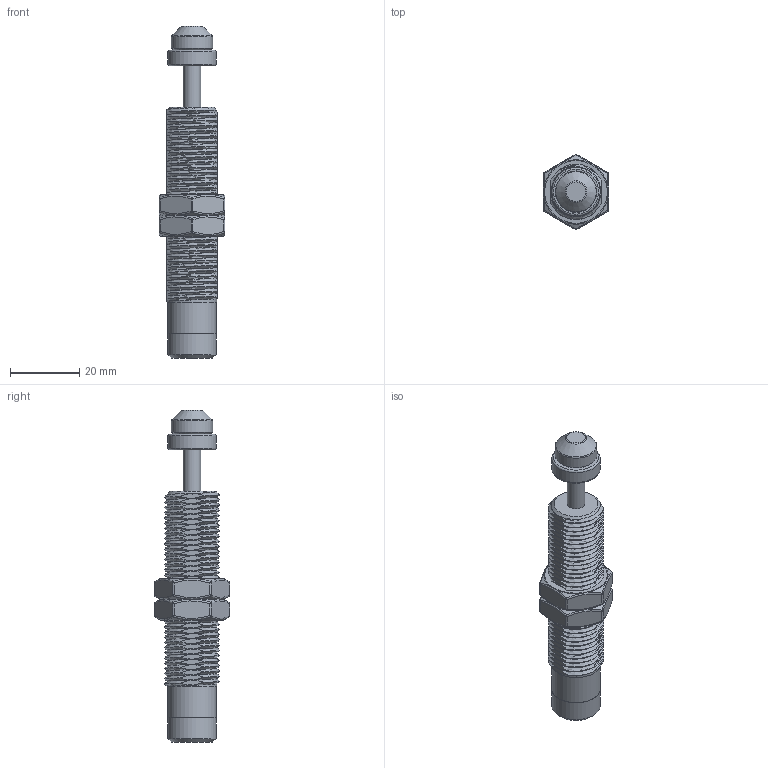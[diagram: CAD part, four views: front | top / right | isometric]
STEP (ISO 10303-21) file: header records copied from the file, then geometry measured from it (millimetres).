
FILE_DESCRIPTION(('STEP AP203'),'1');
FILE_NAME('C:/Documents and Settings/User/官帕 拳搁/KMA16-12B.stp',' ',(' '),(' '),'XStep 1.0',' ',' ');
FILE_SCHEMA(('CONFIG_CONTROL_DESIGN'));
Length unit declared in the file: metre
Products named in the file (1): Assembly170
Bounding box: 19 x 21.78 x 96 mm (x, y, z)
Volume: 16994.9 mm3; surface area: 13524.3 mm2
Topology: 9 solids, 9 shells, 214 faces, 505 edges, 311 vertices
Faces by surface type: plane 105, cone 28, bspline 27, sphere 24, cylinder 22, torus 8
Full cylindrical faces by diameter (mm): 5 x1, 6.3 x1, 12 x1, 13 x1, 14 x3, 14.376 x1, 14.5 x2
Entity records: 14623 total; most frequent: CARTESIAN_POINT 10486, ORIENTED_EDGE 952, DIRECTION 677, EDGE_CURVE 476, AXIS2_PLACEMENT_3D 325, VERTEX_POINT 304, B_SPLINE_CURVE_WITH_KNOTS 245, EDGE_LOOP 242
